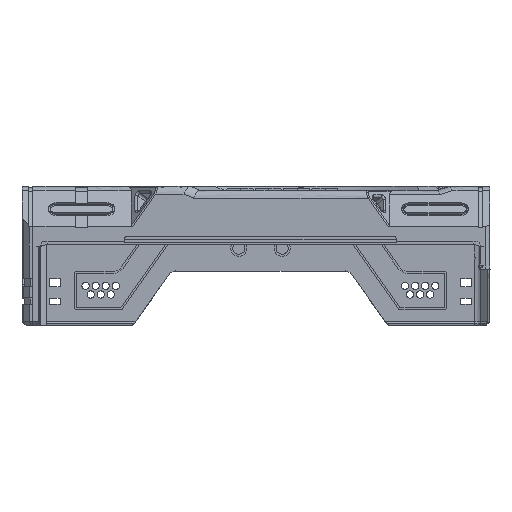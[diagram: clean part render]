
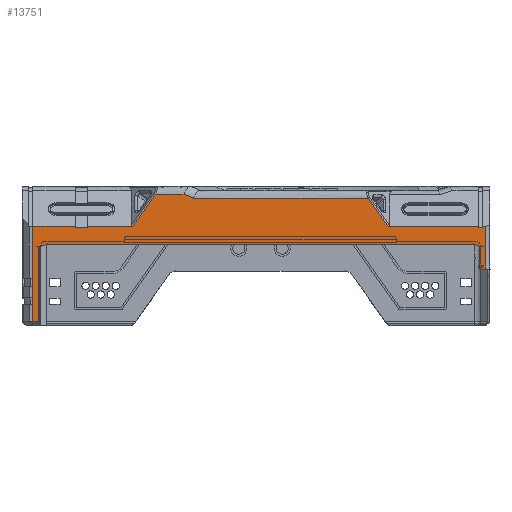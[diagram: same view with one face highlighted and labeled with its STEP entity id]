
A CAD part, front view. The second image highlights one B-rep face of the part: STEP entity #13751.
In plain terms, the highlighted free-form (B-spline) face has degree [1, 1] with [2, 2] control points.
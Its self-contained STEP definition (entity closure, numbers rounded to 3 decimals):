
#3041=CARTESIAN_POINT('',(-26.079,-165.,
31.7));
#3076=DIRECTION('',(0.577,0.,-0.816));
#3077=VECTOR('',#3076,8.538);
#3078=CARTESIAN_POINT('',(26.786,-165.,30.7));
#3079=LINE('',#3078,#3077);
#3080=DIRECTION('',(0.,0.,-1.));
#3081=VECTOR('',#3080,0.424);
#3082=CARTESIAN_POINT('',(54.2,-165.,23.728));
#3083=LINE('',#3082,#3081);
#3084=DIRECTION('',(1.,0.,0.));
#3085=VECTOR('',#3084,1.);
#3086=CARTESIAN_POINT('',(54.2,-165.,23.304));
#3087=LINE('',#3086,#3085);
#3088=DIRECTION('',(0.,0.,1.));
#3089=VECTOR('',#3088,0.424);
#3090=CARTESIAN_POINT('',(55.2,-165.,23.304));
#3091=LINE('',#3090,#3089);
#3092=DIRECTION('',(-1.,0.,0.));
#3093=VECTOR('',#3092,0.8);
#3094=CARTESIAN_POINT('',(56.,-165.,23.728));
#3095=LINE('',#3094,#3093);
#3096=DIRECTION('',(0.,0.,-1.));
#3097=VECTOR('',#3096,10.618);
#3098=CARTESIAN_POINT('',(56.,-165.,23.728));
#3099=LINE('',#3098,#3097);
#3100=DIRECTION('',(-1.,-0.001,0.));
#3101=VECTOR('',#3100,1.52);
#3102=CARTESIAN_POINT('',(56.,-165.,13.11));
#3103=LINE('',#3102,#3101);
#3104=CARTESIAN_POINT('',(54.468,-165.,18.832));
#3105=CARTESIAN_POINT('',(54.376,-165.,18.882));
#3106=CARTESIAN_POINT('',(54.194,-165.,18.972));
#3107=CARTESIAN_POINT('',(53.923,-165.,19.077));
#3108=CARTESIAN_POINT('',(53.677,-165.,19.149));
#3109=CARTESIAN_POINT('',(53.452,-165.,19.194));
#3110=CARTESIAN_POINT('',(53.244,-165.,19.219));
#3111=CARTESIAN_POINT('',(53.114,-165.,19.224));
#3112=CARTESIAN_POINT('',(53.051,-165.,19.224));
#3114=DIRECTION('',(-1.,0.,0.));
#3115=VECTOR('',#3114,106.101);
#3116=CARTESIAN_POINT('',(53.051,-165.,19.224));
#3117=LINE('',#3116,#3115);
#3118=CARTESIAN_POINT('',(-53.051,-165.,
19.224));
#3119=CARTESIAN_POINT('',(-53.135,-165.,
19.224));
#3120=CARTESIAN_POINT('',(-53.31,-165.,
19.215));
#3121=CARTESIAN_POINT('',(-53.596,-165.,
19.17));
#3122=CARTESIAN_POINT('',(-53.903,-165.,
19.086));
#3123=CARTESIAN_POINT('',(-54.219,-165.,
18.962));
#3124=CARTESIAN_POINT('',(-54.517,-165.,
18.81));
#3125=CARTESIAN_POINT('',(-54.782,-165.,
18.645));
#3126=CARTESIAN_POINT('',(-54.935,-165.,
18.534));
#3127=CARTESIAN_POINT('',(-55.007,-165.,
18.479));
#3129=DIRECTION('',(-1.,0.,0.));
#3130=VECTOR('',#3129,1.493);
#3131=CARTESIAN_POINT('',(-55.007,-165.,0.));
#3132=LINE('',#3131,#3130);
#3133=DIRECTION('',(0.,0.,1.));
#3134=VECTOR('',#3133,23.728);
#3135=CARTESIAN_POINT('',(-56.5,-165.,0.));
#3136=LINE('',#3135,#3134);
#3137=DIRECTION('',(1.,0.,0.));
#3138=VECTOR('',#3137,10.533);
#3139=CARTESIAN_POINT('',(-56.5,-165.,
23.728));
#3140=LINE('',#3139,#3138);
#3141=DIRECTION('',(0.,0.,1.));
#3142=VECTOR('',#3141,0.424);
#3143=CARTESIAN_POINT('',(-45.967,-165.,
23.304));
#3144=LINE('',#3143,#3142);
#3145=DIRECTION('',(1.,0.,0.));
#3146=VECTOR('',#3145,3.);
#3147=CARTESIAN_POINT('',(-45.967,-165.,
23.304));
#3148=LINE('',#3147,#3146);
#3149=DIRECTION('',(0.,0.,1.));
#3150=VECTOR('',#3149,0.424);
#3151=CARTESIAN_POINT('',(-42.967,-165.,
23.304));
#3152=LINE('',#3151,#3150);
#3153=DIRECTION('',(0.577,0.,0.816));
#3154=VECTOR('',#3153,9.763);
#3155=CARTESIAN_POINT('',(-31.716,-165.,
23.728));
#3156=LINE('',#3155,#3154);
#3157=DIRECTION('',(1.,0.,0.));
#3158=VECTOR('',#3157,7.105);
#3159=CARTESIAN_POINT('',(-26.079,-165.,
31.7));
#3160=LINE('',#3159,#3158);
#3161=DIRECTION('',(-0.921,0.,0.39));
#3162=VECTOR('',#3161,2.562);
#3163=CARTESIAN_POINT('',(-16.614,-165.,30.7));
#3164=LINE('',#3163,#3162);
#3165=DIRECTION('',(-1.,0.,0.));
#3166=VECTOR('',#3165,43.401);
#3167=CARTESIAN_POINT('',(26.786,-165.,30.7));
#3168=LINE('',#3167,#3166);
#3568=DIRECTION('',(-1.,0.,0.));
#3569=VECTOR('',#3568,22.484);
#3570=CARTESIAN_POINT('',(54.2,-165.,23.728));
#3571=LINE('',#3570,#3569);
#3602=CARTESIAN_POINT('',(56.,-165.,23.728));
#3632=CARTESIAN_POINT('',(54.48,-165.002,13.11));
#3730=DIRECTION('',(0.002,0.,-1.));
#3731=VECTOR('',#3730,5.722);
#3732=CARTESIAN_POINT('',(54.468,-165.,18.832));
#3733=LINE('',#3732,#3731);
#4527=DIRECTION('',(0.,0.,1.));
#4528=VECTOR('',#4527,18.479);
#4529=CARTESIAN_POINT('',(-55.007,-165.,0.));
#4530=LINE('',#4529,#4528);
#4904=DIRECTION('',(-1.,0.,0.));
#4905=VECTOR('',#4904,11.251);
#4906=CARTESIAN_POINT('',(-31.716,-165.,
23.728));
#4907=LINE('',#4906,#4905);
#7969=VERTEX_POINT('',#3632);
#7981=VERTEX_POINT('',#3118);
#7982=VERTEX_POINT('',#3127);
#7987=CARTESIAN_POINT('',(53.051,-165.,19.224));
#7988=VERTEX_POINT('',#7987);
#7990=VERTEX_POINT('',#3104);
#7992=CARTESIAN_POINT('',(56.,-165.,13.11));
#7994=VERTEX_POINT('',#7992);
#8041=VERTEX_POINT('',#3602);
#8066=CARTESIAN_POINT('',(-16.614,-165.,30.7));
#8067=CARTESIAN_POINT('',(-18.974,-165.,31.7));
#8068=VERTEX_POINT('',#8066);
#8069=VERTEX_POINT('',#8067);
#8131=CARTESIAN_POINT('',(-56.5,-165.,
23.728));
#8133=VERTEX_POINT('',#8131);
#8211=CARTESIAN_POINT('',(54.2,-165.,23.728));
#8213=VERTEX_POINT('',#8211);
#8215=CARTESIAN_POINT('',(55.2,-165.,23.728));
#8217=VERTEX_POINT('',#8215);
#8227=CARTESIAN_POINT('',(54.2,-165.,23.304));
#8228=VERTEX_POINT('',#8227);
#8229=CARTESIAN_POINT('',(55.2,-165.,23.304));
#8230=VERTEX_POINT('',#8229);
#8341=CARTESIAN_POINT('',(-45.967,-165.,
23.304));
#8342=CARTESIAN_POINT('',(-42.967,-165.,
23.304));
#8343=VERTEX_POINT('',#8341);
#8344=VERTEX_POINT('',#8342);
#8345=CARTESIAN_POINT('',(-45.967,-165.,
23.728));
#8346=VERTEX_POINT('',#8345);
#8347=CARTESIAN_POINT('',(-42.967,-165.,
23.728));
#8348=VERTEX_POINT('',#8347);
#8365=CARTESIAN_POINT('',(-55.007,-165.,0.));
#8366=CARTESIAN_POINT('',(-56.5,-165.,0.));
#8367=VERTEX_POINT('',#8365);
#8368=VERTEX_POINT('',#8366);
#8495=CARTESIAN_POINT('',(26.786,-165.,30.7));
#8496=CARTESIAN_POINT('',(31.716,-165.,23.728));
#8497=VERTEX_POINT('',#8495);
#8498=VERTEX_POINT('',#8496);
#8542=VERTEX_POINT('',#3041);
#8545=CARTESIAN_POINT('',(-31.716,-165.,
23.728));
#8546=VERTEX_POINT('',#8545);
#13702=CARTESIAN_POINT('',(-58.75,-165.,-0.634));
#13703=CARTESIAN_POINT('',(-58.75,-165.,32.334));
#13704=CARTESIAN_POINT('',(58.25,-165.,-0.634));
#13705=CARTESIAN_POINT('',(58.25,-165.,32.334));
#13706=B_SPLINE_SURFACE_WITH_KNOTS('',1,1,((#13702,#13703),(#13704,#13705)),
.UNSPECIFIED.,.F.,.F.,.F.,(2,2),(2,2),(0.45,117.45),(-34.334,
-1.366),.UNSPECIFIED.);
#13708=ORIENTED_EDGE('',*,*,#13707,.T.);
#13710=ORIENTED_EDGE('',*,*,#13709,.F.);
#13712=ORIENTED_EDGE('',*,*,#13711,.T.);
#13714=ORIENTED_EDGE('',*,*,#13713,.T.);
#13715=ORIENTED_EDGE('',*,*,#11316,.T.);
#13717=ORIENTED_EDGE('',*,*,#13716,.F.);
#13719=ORIENTED_EDGE('',*,*,#13718,.T.);
#13721=ORIENTED_EDGE('',*,*,#13720,.T.);
#13723=ORIENTED_EDGE('',*,*,#13722,.F.);
#13724=ORIENTED_EDGE('',*,*,#13021,.T.);
#13725=ORIENTED_EDGE('',*,*,#13045,.T.);
#13727=ORIENTED_EDGE('',*,*,#13726,.T.);
#13729=ORIENTED_EDGE('',*,*,#13728,.F.);
#13731=ORIENTED_EDGE('',*,*,#13730,.T.);
#13732=ORIENTED_EDGE('',*,*,#10189,.T.);
#13734=ORIENTED_EDGE('',*,*,#13733,.T.);
#13736=ORIENTED_EDGE('',*,*,#13735,.F.);
#13738=ORIENTED_EDGE('',*,*,#13737,.T.);
#13740=ORIENTED_EDGE('',*,*,#13739,.T.);
#13742=ORIENTED_EDGE('',*,*,#13741,.F.);
#13744=ORIENTED_EDGE('',*,*,#13743,.T.);
#13745=ORIENTED_EDGE('',*,*,#13675,.T.);
#13746=ORIENTED_EDGE('',*,*,#13693,.F.);
#13748=ORIENTED_EDGE('',*,*,#13747,.F.);
#13749=EDGE_LOOP('',(#13708,#13710,#13712,#13714,#13715,#13717,#13719,#13721,
#13723,#13724,#13725,#13727,#13729,#13731,#13732,#13734,#13736,#13738,#13740,
#13742,#13744,#13745,#13746,#13748));
#13750=FACE_OUTER_BOUND('',#13749,.F.);
#13751=ADVANCED_FACE('',(#13750),#13706,.T.);
#3113=B_SPLINE_CURVE_WITH_KNOTS('',3,(#3104,#3105,#3106,#3107,#3108,#3109,#3110,
#3111,#3112),.UNSPECIFIED.,.F.,.F.,(4,1,1,1,1,1,4),(0.,0.167,
0.333,0.5,0.667,0.833,1.),
.UNSPECIFIED.);
#3128=B_SPLINE_CURVE_WITH_KNOTS('',3,(#3118,#3119,#3120,#3121,#3122,#3123,#3124,
#3125,#3126,#3127),.UNSPECIFIED.,.F.,.F.,(4,1,1,1,1,1,1,4),(0.,
0.143,0.286,0.429,0.571,
0.714,0.857,1.),.UNSPECIFIED.);
#10189=EDGE_CURVE('',#8368,#8133,#3136,.T.);
#11316=EDGE_CURVE('',#8230,#8217,#3091,.T.);
#13021=EDGE_CURVE('',#7990,#7988,#3113,.T.);
#13045=EDGE_CURVE('',#7988,#7981,#3117,.T.);
#13675=EDGE_CURVE('',#8542,#8069,#3160,.T.);
#13693=EDGE_CURVE('',#8068,#8069,#3164,.T.);
#13707=EDGE_CURVE('',#8497,#8498,#3079,.T.);
#13709=EDGE_CURVE('',#8213,#8498,#3571,.T.);
#13711=EDGE_CURVE('',#8213,#8228,#3083,.T.);
#13713=EDGE_CURVE('',#8228,#8230,#3087,.T.);
#13716=EDGE_CURVE('',#8041,#8217,#3095,.T.);
#13718=EDGE_CURVE('',#8041,#7994,#3099,.T.);
#13720=EDGE_CURVE('',#7994,#7969,#3103,.T.);
#13722=EDGE_CURVE('',#7990,#7969,#3733,.T.);
#13726=EDGE_CURVE('',#7981,#7982,#3128,.T.);
#13728=EDGE_CURVE('',#8367,#7982,#4530,.T.);
#13730=EDGE_CURVE('',#8367,#8368,#3132,.T.);
#13733=EDGE_CURVE('',#8133,#8346,#3140,.T.);
#13735=EDGE_CURVE('',#8343,#8346,#3144,.T.);
#13737=EDGE_CURVE('',#8343,#8344,#3148,.T.);
#13739=EDGE_CURVE('',#8344,#8348,#3152,.T.);
#13741=EDGE_CURVE('',#8546,#8348,#4907,.T.);
#13743=EDGE_CURVE('',#8546,#8542,#3156,.T.);
#13747=EDGE_CURVE('',#8497,#8068,#3168,.T.);
